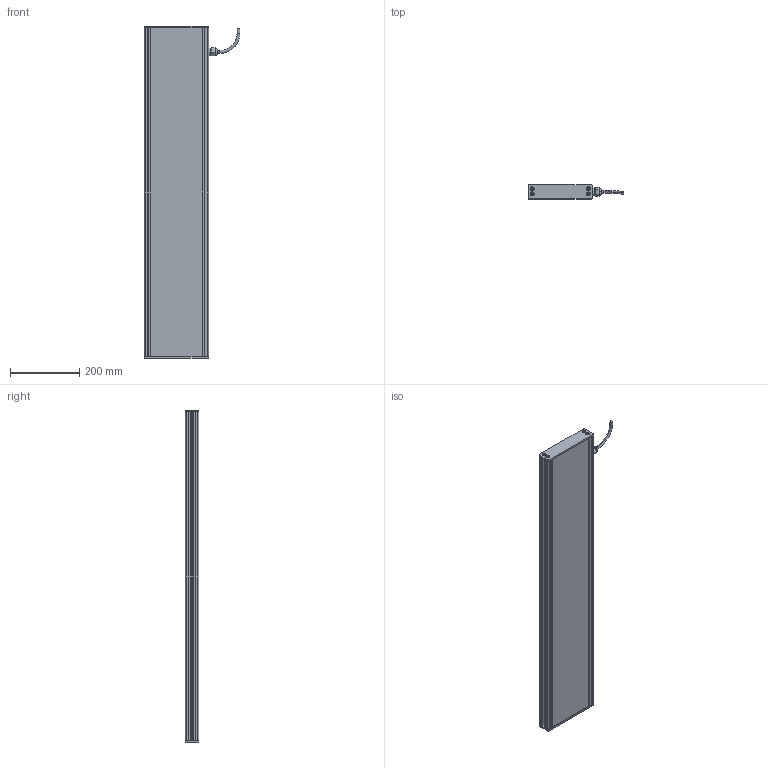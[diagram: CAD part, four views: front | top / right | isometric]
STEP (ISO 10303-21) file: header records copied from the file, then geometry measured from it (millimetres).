
FILE_DESCRIPTION (( 'STEP AP214' ), '1' );
FILE_NAME ('EFFI-BL-150-950T-1M12P.STEP', '2021-07-02T09:10:41', ( '' ), ( '' ), 'SwSTEP 2.0', 'SolidWorks 2021', '' );
FILE_SCHEMA (( 'AUTOMOTIVE_DESIGN' ));
Length unit declared in the file: millimetre
Products named in the file (7): profile modif_lg 99.5 mm; EFFI-BL-150-950T-1M12P; bord fin modif_lg 436.5 mm; 003776; Pièce2^EFFI-BL-XXX-YYYT + M12P; M12 power
Assembly tree (14 placements, depth 2):
  EFFI-BL-150-950T-1M12P
    bord fin modif_lg 436.5 mm  x2
    profile modif_lg 99.5 mm
    Pièce2^EFFI-BL-XXX-YYYT + M12P
    profile modif_lg 99.5 mm
    M12 power
    003776  x8
Bounding box: 276.45 x 40 x 960 mm (x, y, z)
Volume: 6140409.7 mm3; surface area: 676661.1 mm2
Topology: 13 solids, 16 shells, 568 faces, 1441 edges, 923 vertices
Faces by surface type: plane 327, bspline 125, cylinder 94, cone 18, torus 4
Entity records: 15235 total; most frequent: CARTESIAN_POINT 5059, ORIENTED_EDGE 2014, DIRECTION 1715, EDGE_CURVE 1009, LINE 755, VECTOR 755, VERTEX_POINT 666, AXIS2_PLACEMENT_3D 480
